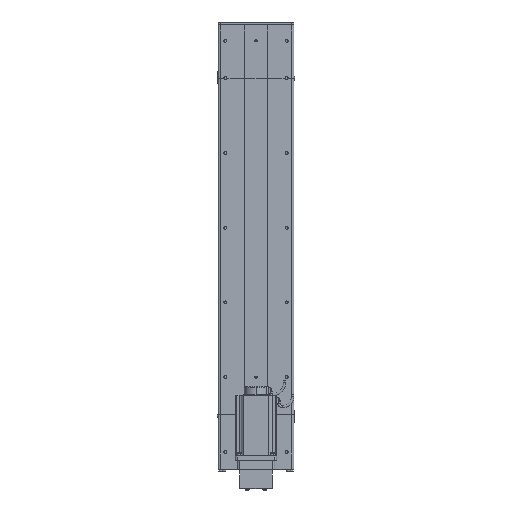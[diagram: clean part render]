
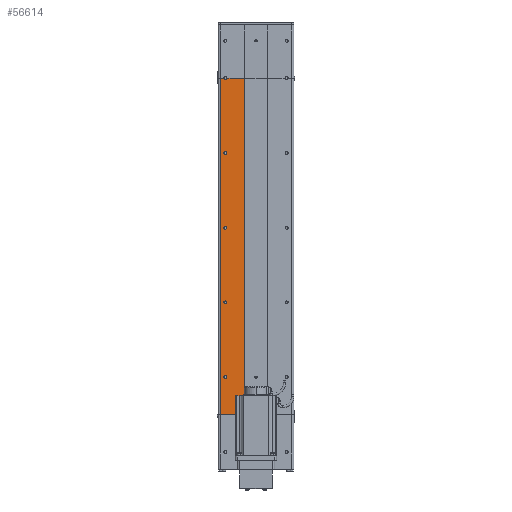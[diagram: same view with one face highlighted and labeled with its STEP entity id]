
A CAD part, front view. The second image highlights one B-rep face of the part: STEP entity #56614.
In plain terms, the highlighted planar face has unit normal (0, -1, 0).
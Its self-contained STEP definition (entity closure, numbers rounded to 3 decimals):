
#27521 = CARTESIAN_POINT ( 'NONE',  ( -86., -34.5, 300. ) ) ;
#27740 = CARTESIAN_POINT ( 'NONE',  ( -82., -34.5, 100. ) ) ;
#27741 = AXIS2_PLACEMENT_3D ( 'NONE', #27740, #28258, #28261 ) ;
#27742 = CIRCLE ( 'NONE', #27741, 4. ) ;
#28218 = CIRCLE ( 'NONE', #28223, 4. ) ;
#28221 = DIRECTION ( 'NONE',  ( 0., -1., 0. ) ) ;
#28222 = CARTESIAN_POINT ( 'NONE',  ( -82., -34.5, 700. ) ) ;
#28223 = AXIS2_PLACEMENT_3D ( 'NONE', #28222, #28221, #28348 ) ;
#28258 = DIRECTION ( 'NONE',  ( 0., -1., 0. ) ) ;
#28261 = DIRECTION ( 'NONE',  ( 1., 0., 0. ) ) ;
#28324 = CARTESIAN_POINT ( 'NONE',  ( -86., -34.5, 700. ) ) ;
#28328 = CARTESIAN_POINT ( 'NONE',  ( -78., -34.5, 700. ) ) ;
#28348 = DIRECTION ( 'NONE',  ( 1., 0., 0. ) ) ;
#28689 = CARTESIAN_POINT ( 'NONE',  ( -86., -34.5, 500. ) ) ;
#29030 = CIRCLE ( 'NONE', #29036, 4. ) ;
#29036 = AXIS2_PLACEMENT_3D ( 'NONE', #29090, #29089, #29088 ) ;
#29086 = CARTESIAN_POINT ( 'NONE',  ( -78., -34.5, 500. ) ) ;
#29088 = DIRECTION ( 'NONE',  ( 1., 0., 0. ) ) ;
#29089 = DIRECTION ( 'NONE',  ( 0., -1., 0. ) ) ;
#29090 = CARTESIAN_POINT ( 'NONE',  ( -82., -34.5, 500. ) ) ;
#29091 = AXIS2_PLACEMENT_3D ( 'NONE', #29170, #29108, #29107 ) ;
#29107 = DIRECTION ( 'NONE',  ( 1., 0., 0. ) ) ;
#29108 = DIRECTION ( 'NONE',  ( 0., -1., 0. ) ) ;
#29111 = CIRCLE ( 'NONE', #29091, 4. ) ;
#29170 = CARTESIAN_POINT ( 'NONE',  ( -82., -34.5, 300. ) ) ;
#29283 = CARTESIAN_POINT ( 'NONE',  ( -78., -34.5, 100. ) ) ;
#29959 = CARTESIAN_POINT ( 'NONE',  ( -86., -34.5, 100. ) ) ;
#30009 = CARTESIAN_POINT ( 'NONE',  ( -78., -34.5, 300. ) ) ;
#30074 = CARTESIAN_POINT ( 'NONE',  ( -78., -34.5, 900. ) ) ;
#30404 = CARTESIAN_POINT ( 'NONE',  ( -96., -34.5, 900. ) ) ;
#30436 = CARTESIAN_POINT ( 'NONE',  ( -30., -34.5, 900. ) ) ;
#30498 = DIRECTION ( 'NONE',  ( 1., 0., 0. ) ) ;
#30499 = VECTOR ( 'NONE', #30498, 1000. ) ;
#30500 = CARTESIAN_POINT ( 'NONE',  ( -96., -34.5, 900. ) ) ;
#30501 = LINE ( 'NONE', #30500, #30499 ) ;
#30629 = DIRECTION ( 'NONE',  ( 0., -1., 0. ) ) ;
#30719 = DIRECTION ( 'NONE',  ( 1., 0., 0. ) ) ;
#30763 = CARTESIAN_POINT ( 'NONE',  ( -82., -34.5, 100. ) ) ;
#30767 = AXIS2_PLACEMENT_3D ( 'NONE', #30763, #30629, #30719 ) ;
#30768 = CIRCLE ( 'NONE', #30767, 4. ) ;
#30835 = CARTESIAN_POINT ( 'NONE',  ( -86., -34.5, 900. ) ) ;
#30836 = DIRECTION ( 'NONE',  ( 1., 0., 0. ) ) ;
#30837 = VECTOR ( 'NONE', #30836, 1000. ) ;
#30849 = CARTESIAN_POINT ( 'NONE',  ( -96., -34.5, 900. ) ) ;
#30850 = LINE ( 'NONE', #30849, #30837 ) ;
#31116 = DIRECTION ( 'NONE',  ( 1., 0., 0. ) ) ;
#31117 = AXIS2_PLACEMENT_3D ( 'NONE', #31166, #31167, #31116 ) ;
#31118 = CIRCLE ( 'NONE', #31117, 4. ) ;
#31166 = CARTESIAN_POINT ( 'NONE',  ( -82., -34.5, 500. ) ) ;
#31167 = DIRECTION ( 'NONE',  ( 0., -1., 0. ) ) ;
#31504 = CARTESIAN_POINT ( 'NONE',  ( -82., -34.5, 300. ) ) ;
#31569 = AXIS2_PLACEMENT_3D ( 'NONE', #31504, #31579, #31578 ) ;
#31573 = CIRCLE ( 'NONE', #31569, 4. ) ;
#31578 = DIRECTION ( 'NONE',  ( 1., 0., 0. ) ) ;
#31579 = DIRECTION ( 'NONE',  ( 0., -1., 0. ) ) ;
#31668 = DIRECTION ( 'NONE',  ( 1., 0., 0. ) ) ;
#31669 = DIRECTION ( 'NONE',  ( 0., -1., 0. ) ) ;
#31670 = CARTESIAN_POINT ( 'NONE',  ( -82., -34.5, 700. ) ) ;
#31678 = AXIS2_PLACEMENT_3D ( 'NONE', #31670, #31669, #31668 ) ;
#31685 = DIRECTION ( 'NONE',  ( 0., 0., -1. ) ) ;
#31686 = VECTOR ( 'NONE', #31685, 1000. ) ;
#31687 = CARTESIAN_POINT ( 'NONE',  ( -96., -34.5, 900. ) ) ;
#31692 = DIRECTION ( 'NONE',  ( 1., 0., 0. ) ) ;
#31693 = VECTOR ( 'NONE', #31692, 1000. ) ;
#31694 = CARTESIAN_POINT ( 'NONE',  ( -96., -34.5, 0. ) ) ;
#31695 = LINE ( 'NONE', #31694, #31693 ) ;
#31696 = CARTESIAN_POINT ( 'NONE',  ( -30., -34.5, 0. ) ) ;
#31697 = CARTESIAN_POINT ( 'NONE',  ( -96., -34.5, 0. ) ) ;
#31748 = CIRCLE ( 'NONE', #31850, 4. ) ;
#31767 = FACE_BOUND ( 'NONE', #56640, .T. ) ;
#31768 = FACE_BOUND ( 'NONE', #56462, .T. ) ;
#31769 = DIRECTION ( 'NONE',  ( 1., 0., 0. ) ) ;
#31770 = DIRECTION ( 'NONE',  ( 0., -1., 0. ) ) ;
#31771 = AXIS2_PLACEMENT_3D ( 'NONE', #31826, #31825, #31824 ) ;
#31795 = DIRECTION ( 'NONE',  ( 0., 0., 1. ) ) ;
#31796 = VECTOR ( 'NONE', #31795, 1000. ) ;
#31797 = CARTESIAN_POINT ( 'NONE',  ( -30., -34.5, 0. ) ) ;
#31798 = CIRCLE ( 'NONE', #31678, 4. ) ;
#31807 = LINE ( 'NONE', #31687, #31686 ) ;
#31824 = DIRECTION ( 'NONE',  ( -1., 0., 0. ) ) ;
#31825 = DIRECTION ( 'NONE',  ( 0., 1., 0. ) ) ;
#31826 = CARTESIAN_POINT ( 'NONE',  ( -96., -34.5, 900. ) ) ;
#31827 = LINE ( 'NONE', #31797, #31796 ) ;
#31832 = FACE_BOUND ( 'NONE', #56582, .T. ) ;
#31833 = PLANE ( 'NONE',  #31771 ) ;
#31838 = CARTESIAN_POINT ( 'NONE',  ( -82., -34.5, 900. ) ) ;
#31839 = FACE_BOUND ( 'NONE', #56575, .T. ) ;
#31840 = FACE_OUTER_BOUND ( 'NONE', #56225, .T. ) ;
#31850 = AXIS2_PLACEMENT_3D ( 'NONE', #31838, #31770, #31769 ) ;
#55561 = EDGE_CURVE ( 'NONE', #55567, #55566, #28218, .T. ) ;
#55566 = VERTEX_POINT ( 'NONE', #28328 ) ;
#55567 = VERTEX_POINT ( 'NONE', #28324 ) ;
#55570 = VERTEX_POINT ( 'NONE', #28689 ) ;
#55640 = VERTEX_POINT ( 'NONE', #27521 ) ;
#55711 = EDGE_CURVE ( 'NONE', #55570, #55712, #29030, .T. ) ;
#55712 = VERTEX_POINT ( 'NONE', #29086 ) ;
#55716 = EDGE_CURVE ( 'NONE', #55640, #55906, #29111, .T. ) ;
#55805 = EDGE_CURVE ( 'NONE', #55895, #55807, #27742, .T. ) ;
#55807 = VERTEX_POINT ( 'NONE', #29283 ) ;
#55895 = VERTEX_POINT ( 'NONE', #29959 ) ;
#55906 = VERTEX_POINT ( 'NONE', #30009 ) ;
#55939 = VERTEX_POINT ( 'NONE', #30074 ) ;
#56056 = VERTEX_POINT ( 'NONE', #30436 ) ;
#56058 = EDGE_CURVE ( 'NONE', #55939, #56056, #30501, .T. ) ;
#56149 = VERTEX_POINT ( 'NONE', #30404 ) ;
#56223 = EDGE_CURVE ( 'NONE', #55807, #55895, #30768, .T. ) ;
#56225 = EDGE_LOOP ( 'NONE', ( #56564, #56227, #56610, #56570, #56565, #56617 ) ) ;
#56226 = ORIENTED_EDGE ( 'NONE', *, *, #55805, .F. ) ;
#56227 = ORIENTED_EDGE ( 'NONE', *, *, #56609, .F. ) ;
#56336 = EDGE_CURVE ( 'NONE', #56149, #56338, #30850, .T. ) ;
#56338 = VERTEX_POINT ( 'NONE', #30835 ) ;
#56392 = ORIENTED_EDGE ( 'NONE', *, *, #55711, .F. ) ;
#56415 = ORIENTED_EDGE ( 'NONE', *, *, #56488, .F. ) ;
#56423 = EDGE_CURVE ( 'NONE', #55712, #55570, #31118, .T. ) ;
#56462 = EDGE_LOOP ( 'NONE', ( #56507, #56392 ) ) ;
#56488 = EDGE_CURVE ( 'NONE', #55906, #55640, #31573, .T. ) ;
#56507 = ORIENTED_EDGE ( 'NONE', *, *, #56423, .F. ) ;
#56510 = ORIENTED_EDGE ( 'NONE', *, *, #56560, .F. ) ;
#56531 = ORIENTED_EDGE ( 'NONE', *, *, #56223, .F. ) ;
#56560 = EDGE_CURVE ( 'NONE', #55566, #55567, #31798, .T. ) ;
#56564 = ORIENTED_EDGE ( 'NONE', *, *, #56058, .F. ) ;
#56565 = ORIENTED_EDGE ( 'NONE', *, *, #56571, .T. ) ;
#56570 = ORIENTED_EDGE ( 'NONE', *, *, #56584, .T. ) ;
#56571 = EDGE_CURVE ( 'NONE', #56573, #56583, #31695, .T. ) ;
#56573 = VERTEX_POINT ( 'NONE', #31697 ) ;
#56575 = EDGE_LOOP ( 'NONE', ( #56510, #56605 ) ) ;
#56576 = ORIENTED_EDGE ( 'NONE', *, *, #55716, .F. ) ;
#56582 = EDGE_LOOP ( 'NONE', ( #56531, #56226 ) ) ;
#56583 = VERTEX_POINT ( 'NONE', #31696 ) ;
#56584 = EDGE_CURVE ( 'NONE', #56149, #56573, #31807, .T. ) ;
#56605 = ORIENTED_EDGE ( 'NONE', *, *, #55561, .F. ) ;
#56609 = EDGE_CURVE ( 'NONE', #56338, #55939, #31748, .T. ) ;
#56610 = ORIENTED_EDGE ( 'NONE', *, *, #56336, .F. ) ;
#56614 = ADVANCED_FACE ( 'NONE', ( #31839, #31768, #31767, #31832, #31840 ), #31833, .F. ) ;
#56615 = EDGE_CURVE ( 'NONE', #56583, #56056, #31827, .T. ) ;
#56617 = ORIENTED_EDGE ( 'NONE', *, *, #56615, .T. ) ;
#56640 = EDGE_LOOP ( 'NONE', ( #56415, #56576 ) ) ;
